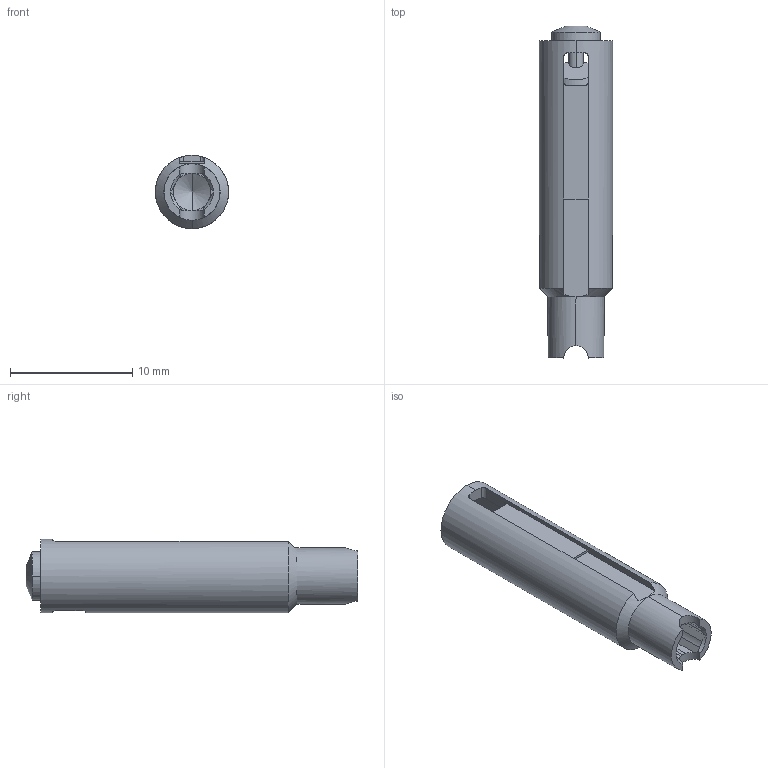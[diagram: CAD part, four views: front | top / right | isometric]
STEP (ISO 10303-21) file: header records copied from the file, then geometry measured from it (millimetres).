
FILE_DESCRIPTION (( 'STEP AP203' ), '1' );
FILE_NAME ('SGD-607CF.STEP', '2020-08-07T06:48:06', ( '' ), ( '' ), 'SwSTEP 2.0', 'SolidWorks 2019', '' );
FILE_SCHEMA (( 'CONFIG_CONTROL_DESIGN' ));
Length unit declared in the file: millimetre
Products named in the file (3): SGD-605F_CORPO_CAT_SGD-605F CORPO FINITO; SGD-607CF; SGD-607C_STELO MOBILE_CAT
Assembly tree (2 placements, depth 2):
  SGD-607CF
    SGD-605F_CORPO_CAT_SGD-605F CORPO FINITO
    SGD-607C_STELO MOBILE_CAT
Bounding box: 6 x 27.2 x 6 mm (x, y, z)
Volume: 589.8 mm3; surface area: 898.1 mm2
Topology: 2 solids, 2 shells, 78 faces, 225 edges, 145 vertices
Faces by surface type: plane 44, cylinder 26, cone 8
Entity records: 2960 total; most frequent: CARTESIAN_POINT 649, ORIENTED_EDGE 446, DIRECTION 405, EDGE_CURVE 223, AXIS2_PLACEMENT_3D 147, VERTEX_POINT 145, LINE 111, VECTOR 111
